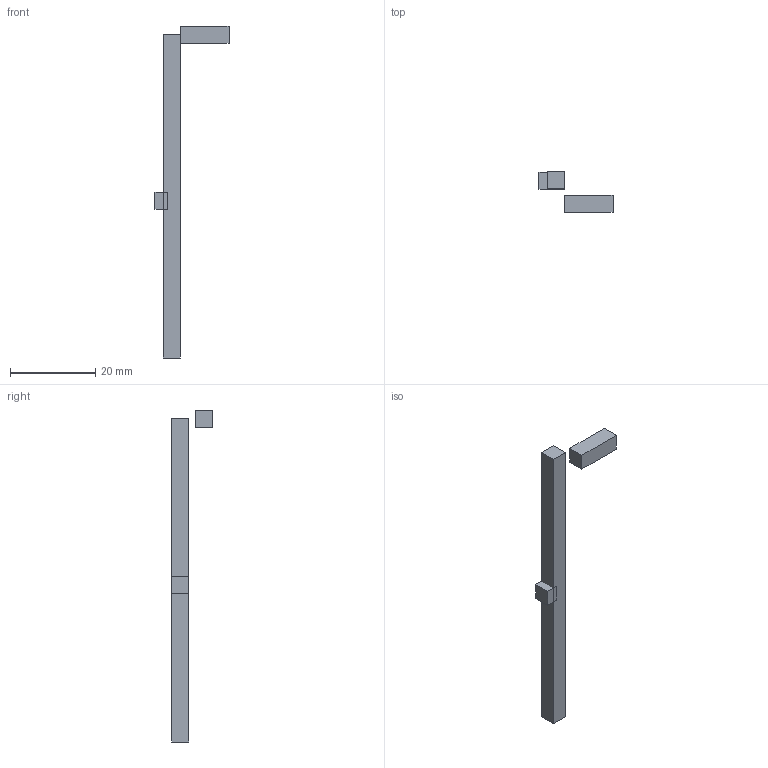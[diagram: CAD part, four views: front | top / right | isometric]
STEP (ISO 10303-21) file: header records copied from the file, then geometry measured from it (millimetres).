
FILE_DESCRIPTION(('Open CASCADE Model'),'2;1');
FILE_NAME('harness','2026-08-12T02:42:46',('Author'),('Open CASCADE'), 'Open CASCADE STEP processor 7.9','build123d','Unknown');
FILE_SCHEMA(('AUTOMOTIVE_DESIGN { 1 0 10303 214 1 1 1 1 }'));
Length unit declared in the file: millimetre
Products named in the file (4): harness; COMPOUND
Assembly tree (3 placements, depth 2):
  harness
    COMPOUND
    COMPOUND
    COMPOUND
Bounding box: 17.4 x 9.5 x 78 mm (x, y, z)
Volume: 1448 mm3; surface area: 1544 mm2
Topology: 3 solids, 3 shells, 18 faces, 36 edges, 24 vertices
Faces by surface type: plane 18
Entity records: 988 total; most frequent: CARTESIAN_POINT 154, DIRECTION 152, LINE 108, VECTOR 108, ORIENTED_EDGE 72, PCURVE 72, DEFINITIONAL_REPRESENTATION 72, EDGE_CURVE 36
